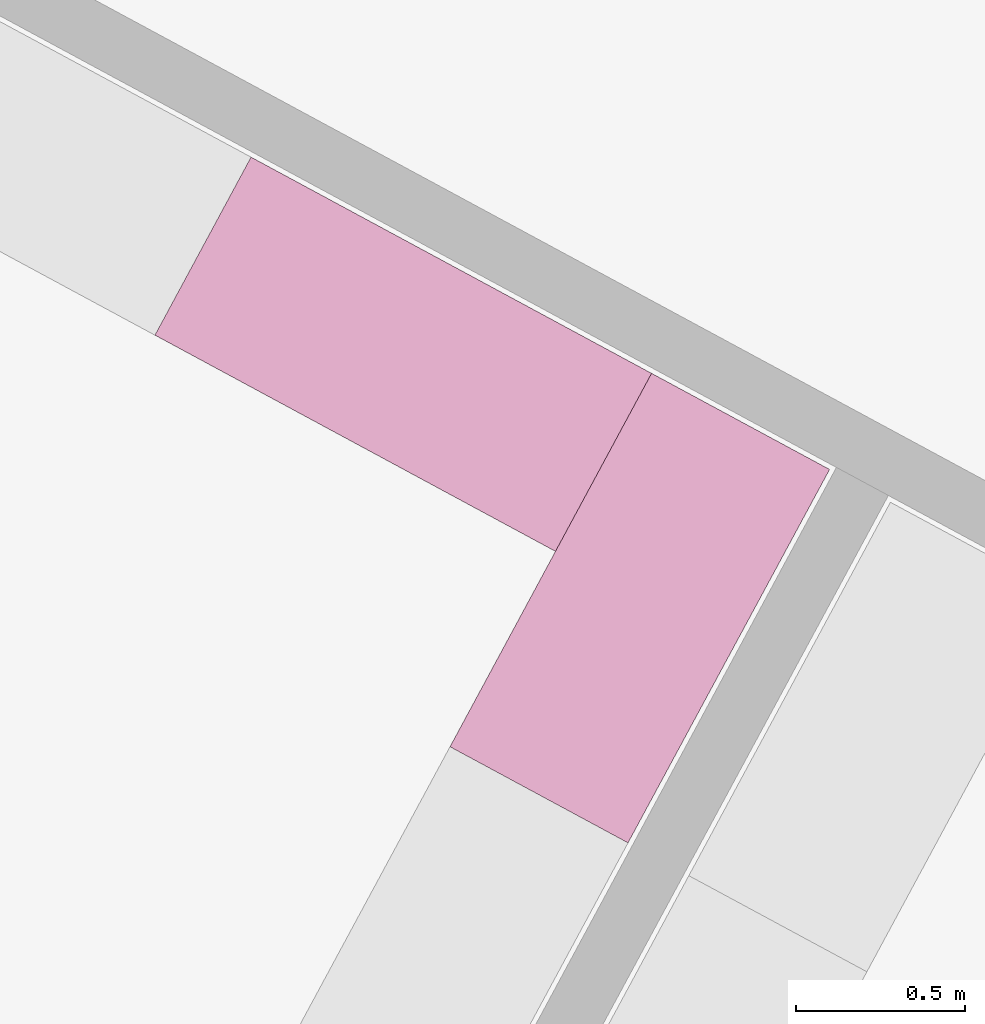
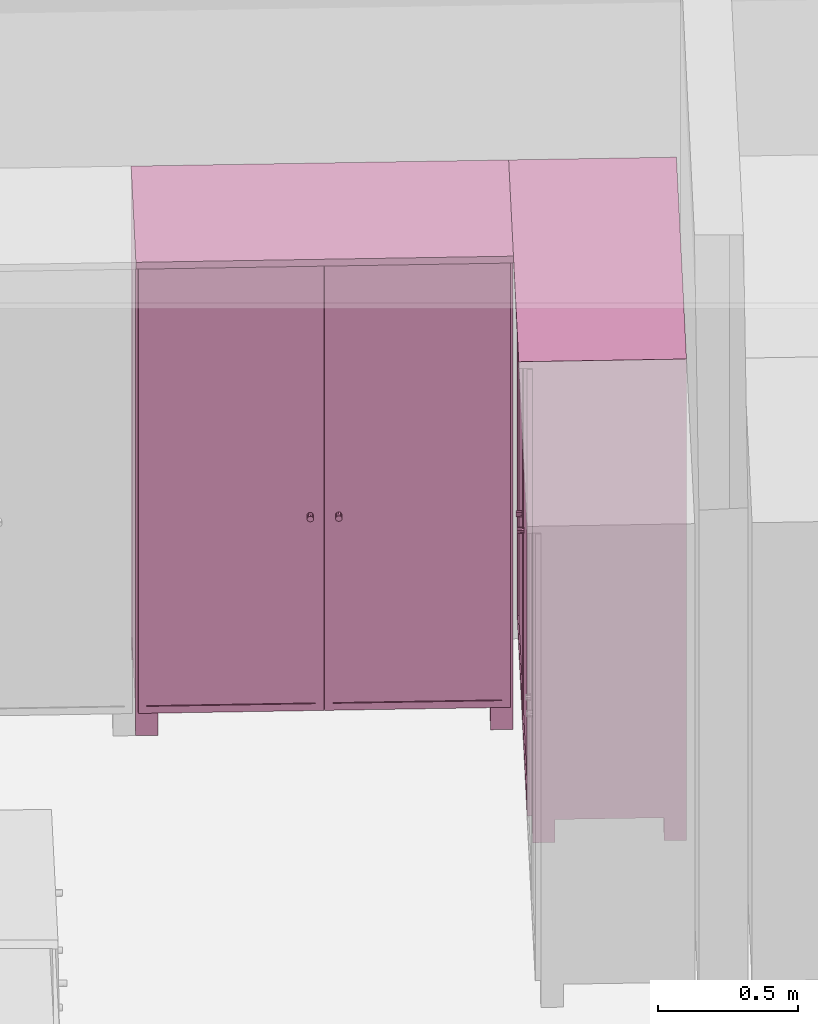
# One storey, part 33 of 41: 2 furnishings.
"""IFC2X3 building model written with IfcOpenShell, lengths in metres."""

from ifc_helpers import new_model, entity, si_unit, converted_unit, derived_unit, money_unit, direction, frame, origin_with_axes, place, context, subcontext, project, spatial, faceted_brep, type_object, element, save


model = new_model("IFC2X3")

# Units and contexts
model_context = context("Model", 3, precision=1e-05, world=origin_with_axes(), true_north=direction((0.0, 1.0)))
body_context = subcontext(model_context, "Body", "Model", "MODEL_VIEW")
ifc_project = project(units=[si_unit("LENGTHUNIT", "METRE"), si_unit("AREAUNIT", "SQUARE_METRE"), si_unit("VOLUMEUNIT", "CUBIC_METRE"), converted_unit("PLANEANGLEUNIT", "DEGREE", entity("IfcPlaneAngleMeasure", 0.0174532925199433), si_unit("PLANEANGLEUNIT", "RADIAN"), dimensions=[0, 0, 0, 0, 0, 0, 0]), money_unit("EUR"), converted_unit("TIMEUNIT", "Year", entity("IfcTimeMeasure", 31556926.0), si_unit("TIMEUNIT", "SECOND"), dimensions=[0, 0, 1, 0, 0, 0, 0]), si_unit("MASSUNIT", "GRAM", prefix="KILO"), si_unit("THERMODYNAMICTEMPERATUREUNIT", "DEGREE_CELSIUS"), si_unit("LUMINOUSINTENSITYUNIT", "LUMEN"), si_unit("ENERGYUNIT", "JOULE", prefix="MEGA"), derived_unit("THERMALCONDUCTANCEUNIT", [(si_unit("POWERUNIT", "WATT"), 1), (si_unit("LENGTHUNIT", "METRE"), -1), (si_unit("THERMODYNAMICTEMPERATUREUNIT", "KELVIN"), -1)]), derived_unit("SPECIFICHEATCAPACITYUNIT", [(si_unit("ENERGYUNIT", "JOULE"), 1), (si_unit("MASSUNIT", "GRAM", prefix="KILO"), -1), (si_unit("THERMODYNAMICTEMPERATUREUNIT", "KELVIN"), -1)]), derived_unit("MASSDENSITYUNIT", [(si_unit("MASSUNIT", "GRAM", prefix="KILO"), 1), (si_unit("VOLUMEUNIT", "CUBIC_METRE"), -1)])], contexts=[model_context])

# Site, building, storey
site_placement = place(None, frame((-3.949935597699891, 1.740105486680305, 0.0), z_axis=(0.0, 0.0, 1.0), x_axis=(0.8799804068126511, -0.475009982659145, 0.0)))
site = spatial("IfcSite", under=ifc_project, at=site_placement, Name="Gelände", CompositionType="ELEMENT")
building_placement = place(site_placement, origin_with_axes())
building = spatial("IfcBuilding", under=site, at=building_placement, Name="Gebäude", CompositionType="ELEMENT")
storey_placement = place(building_placement, frame((0.0, 0.0, 4.55), z_axis=(0.0, 0.0, 1.0), x_axis=(1.0, 0.0, 0.0)))
storey = spatial("IfcBuildingStorey", under=building, at=storey_placement, Name="Staffelgeschoss", CompositionType="ELEMENT", Elevation=4.55)

# Furnishings
furniture_type = type_object("IfcFurnitureType", Name="Kleiderschrank 22", AssemblyPlace="NOTDEFINED")
furnishing_1_placement = place(storey_placement, frame((15.97849488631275, 5.70306071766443, 0.0), z_axis=(0.0, 0.0, 1.0), x_axis=(0.0, -1.0, 0.0)))
element("IfcFurnishingElement", 1, at=furnishing_1_placement, inside=storey, type_object=furniture_type, Name="Objekt-0066", ObjectType="FURNITURE", context=body_context, shape_type="Brep", body=[
    faceted_brep([(0.02000000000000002, 0.6000000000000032, 0.12), (0.02000000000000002, 0.5800000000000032, 0.12), (0.02000000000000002, 0.5800000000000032, 2.05), (0.02000000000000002, 0.6000000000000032, 2.05), (1.238534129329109, 0.6000000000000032, 0.12), (1.238534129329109, 0.5800000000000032, 0.12), (1.238534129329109, 0.5800000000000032, 2.05), (1.238534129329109, 0.6000000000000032, 2.05)], [[[0, 1, 2, 3]], [[0, 4, 5, 1]], [[1, 5, 6, 2]], [[3, 2, 6, 7]], [[4, 0, 3, 7]], [[5, 4, 7, 6]]]),
    faceted_brep([(1.258534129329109, 0.05000000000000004, 0.1), (1.238534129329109, 0.05000000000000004, 0.1), (1.238534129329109, 0.6000000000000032, 0.1), (1.258534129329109, 0.6000000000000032, 0.1), (1.258534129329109, 0.05000000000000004, 2.07), (1.238534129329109, 0.05000000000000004, 2.07), (1.238534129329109, 0.6000000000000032, 2.07), (1.258534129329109, 0.6000000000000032, 2.07)], [[[0, 1, 2, 3]], [[1, 0, 4, 5]], [[2, 1, 5, 6]], [[3, 2, 6, 7]], [[0, 3, 7, 4]], [[5, 4, 7, 6]]]),
    faceted_brep([(0.02, 0.05000000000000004, 0.1), (0.0, 0.05000000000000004, 0.1), (0.0, 0.6000000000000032, 0.1), (0.02, 0.6000000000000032, 0.1), (0.02, 0.05000000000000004, 2.07), (0.0, 0.05000000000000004, 2.07), (0.0, 0.6000000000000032, 2.07), (0.02, 0.6000000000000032, 2.07)], [[[0, 1, 2, 3]], [[1, 0, 4, 5]], [[2, 1, 5, 6]], [[3, 2, 6, 7]], [[0, 3, 7, 4]], [[5, 4, 7, 6]]]),
    faceted_brep([(1.238534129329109, 0.05000000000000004, 0.1), (0.02000000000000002, 0.05000000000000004, 0.1), (0.02000000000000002, 0.6000000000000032, 0.1), (1.238534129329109, 0.6000000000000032, 0.1), (1.238534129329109, 0.05000000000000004, 0.12), (0.02000000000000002, 0.05000000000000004, 0.12), (0.02000000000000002, 0.6000000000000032, 0.12), (1.238534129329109, 0.6000000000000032, 0.12)], [[[0, 1, 2, 3]], [[1, 0, 4, 5]], [[2, 1, 5, 6]], [[3, 2, 6, 7]], [[0, 3, 7, 4]], [[5, 4, 7, 6]]]),
    faceted_brep([(1.238534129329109, 0.05000000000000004, 2.05), (0.02000000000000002, 0.05000000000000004, 2.05), (0.02000000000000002, 0.6000000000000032, 2.05), (1.238534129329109, 0.6000000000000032, 2.05), (1.238534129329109, 0.05000000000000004, 2.07), (0.02000000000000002, 0.05000000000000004, 2.07), (0.02000000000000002, 0.6000000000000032, 2.07), (1.238534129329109, 0.6000000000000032, 2.07)], [[[0, 1, 2, 3]], [[1, 0, 4, 5]], [[2, 1, 5, 6]], [[3, 2, 6, 7]], [[0, 3, 7, 4]], [[5, 4, 7, 6]]]),
    faceted_brep([(1.258534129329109, 0.6000000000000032, 2.07), (1.258534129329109, 0.6000000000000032, 2.1), (1.258534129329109, 0.0, 2.1), (1.258534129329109, 0.0, 2.07), (0.0, 0.6000000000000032, 2.07), (0.0, 0.6000000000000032, 2.1), (0.0, 0.0, 2.1), (0.0, 0.0, 2.07)], [[[0, 1, 2, 3]], [[4, 5, 1, 0]], [[1, 5, 6, 2]], [[3, 2, 6, 7]], [[0, 3, 7, 4]], [[7, 6, 5, 4]]]),
    faceted_brep([(0.08000000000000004, 0.5200000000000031, 0.0), (0.08000000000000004, 0.6000000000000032, 0.0), (0.08000000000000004, 0.6000000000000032, 0.1), (0.08000000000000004, 0.5200000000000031, 0.1), (0.0, 0.5200000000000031, 0.0), (0.0, 0.6000000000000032, 0.0), (0.0, 0.6000000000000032, 0.1), (0.0, 0.5200000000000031, 0.1)], [[[0, 1, 2, 3]], [[0, 4, 5, 1]], [[1, 5, 6, 2]], [[3, 2, 6, 7]], [[4, 0, 3, 7]], [[5, 4, 7, 6]]]),
    faceted_brep([(1.258534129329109, 0.5200000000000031, 0.0), (1.258534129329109, 0.6000000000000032, 0.0), (1.258534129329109, 0.6000000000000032, 0.1), (1.258534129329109, 0.5200000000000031, 0.1), (1.178534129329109, 0.5200000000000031, 0.0), (1.178534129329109, 0.6000000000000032, 0.0), (1.178534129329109, 0.6000000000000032, 0.1), (1.178534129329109, 0.5200000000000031, 0.1)], [[[0, 1, 2, 3]], [[0, 4, 5, 1]], [[1, 5, 6, 2]], [[3, 2, 6, 7]], [[4, 0, 3, 7]], [[5, 4, 7, 6]]]),
    faceted_brep([(0.08000000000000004, 0.05000000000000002, 0.0), (0.08000000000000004, 0.13, 0.0), (0.08000000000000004, 0.13, 0.1), (0.08000000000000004, 0.05000000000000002, 0.1), (0.0, 0.05000000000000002, 0.0), (0.0, 0.13, 0.0), (0.0, 0.13, 0.1), (0.0, 0.05000000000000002, 0.1)], [[[0, 1, 2, 3]], [[0, 4, 5, 1]], [[1, 5, 6, 2]], [[3, 2, 6, 7]], [[4, 0, 3, 7]], [[5, 4, 7, 6]]]),
    faceted_brep([(1.258534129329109, 0.05000000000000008, 0.0), (1.258534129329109, 0.1300000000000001, 0.0), (1.258534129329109, 0.1300000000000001, 0.1), (1.258534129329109, 0.05000000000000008, 0.1), (1.178534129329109, 0.05000000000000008, 0.0), (1.178534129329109, 0.1300000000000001, 0.0), (1.178534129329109, 0.1300000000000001, 0.1), (1.178534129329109, 0.05000000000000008, 0.1)], [[[0, 1, 2, 3]], [[0, 4, 5, 1]], [[1, 5, 6, 2]], [[3, 2, 6, 7]], [[4, 0, 3, 7]], [[5, 4, 7, 6]]]),
    faceted_brep([(0.6287670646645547, 0.05, 0.1104999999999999), (0.6287670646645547, 0.05000000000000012, 2.0595), (0.6287670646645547, 0.03000000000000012, 2.0595), (0.6287670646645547, 0.03, 0.1104999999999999), (0.5987670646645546, 0.05, 0.1405), (0.5987670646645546, 0.05000000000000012, 2.0295), (0.5987670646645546, 0.03000000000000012, 2.0295), (0.5987670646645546, 0.03000000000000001, 0.1405)], [[[0, 1, 2, 3]], [[0, 4, 5, 1]], [[1, 5, 6, 2]], [[3, 2, 6, 7]], [[4, 0, 3, 7]], [[5, 4, 7, 6]]]),
    faceted_brep([(0.04049999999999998, 0.05, 0.1405), (0.04049999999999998, 0.05000000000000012, 2.0295), (0.04049999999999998, 0.03000000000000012, 2.0295), (0.04049999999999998, 0.03000000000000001, 0.1405), (0.01050000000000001, 0.05, 0.1104999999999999), (0.01050000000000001, 0.05000000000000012, 2.0595), (0.01050000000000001, 0.03000000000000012, 2.0595), (0.01050000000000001, 0.03, 0.1104999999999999)], [[[0, 1, 2, 3]], [[0, 4, 5, 1]], [[1, 5, 6, 2]], [[3, 2, 6, 7]], [[4, 0, 3, 7]], [[5, 4, 7, 6]]]),
    faceted_brep([(0.01050000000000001, 0.05, 0.1104999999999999), (0.6287670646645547, 0.05, 0.1104999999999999), (0.6287670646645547, 0.03, 0.1104999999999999), (0.01050000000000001, 0.03, 0.1104999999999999), (0.04049999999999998, 0.05, 0.1405), (0.5987670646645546, 0.05, 0.1405), (0.5987670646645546, 0.03000000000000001, 0.1405), (0.04049999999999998, 0.03000000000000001, 0.1405)], [[[0, 1, 2, 3]], [[0, 4, 5, 1]], [[1, 5, 6, 2]], [[3, 2, 6, 7]], [[4, 0, 3, 7]], [[5, 4, 7, 6]]]),
    faceted_brep([(0.04049999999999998, 0.05000000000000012, 2.0295), (0.5987670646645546, 0.05000000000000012, 2.0295), (0.5987670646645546, 0.03000000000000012, 2.0295), (0.04049999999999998, 0.03000000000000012, 2.0295), (0.01050000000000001, 0.05000000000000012, 2.0595), (0.6287670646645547, 0.05000000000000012, 2.0595), (0.6287670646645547, 0.03000000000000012, 2.0595), (0.01050000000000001, 0.03000000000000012, 2.0595)], [[[0, 1, 2, 3]], [[0, 4, 5, 1]], [[1, 5, 6, 2]], [[3, 2, 6, 7]], [[4, 0, 3, 7]], [[5, 4, 7, 6]]]),
    faceted_brep([(0.5987670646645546, 0.04500000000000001, 0.1405), (0.5987670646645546, 0.04500000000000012, 2.0295), (0.5987670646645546, 0.03500000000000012, 2.0295), (0.5987670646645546, 0.035, 0.1405), (0.04049999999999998, 0.04500000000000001, 0.1405), (0.04049999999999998, 0.04500000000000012, 2.0295), (0.04049999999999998, 0.03500000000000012, 2.0295), (0.04049999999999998, 0.035, 0.1405)], [[[0, 1, 2, 3]], [[0, 4, 5, 1]], [[1, 5, 6, 2]], [[3, 2, 6, 7]], [[4, 0, 3, 7]], [[5, 4, 7, 6]]]),
    faceted_brep([(0.5886593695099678, 0.035, 0.954), (0.5842670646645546, 0.035, 0.9496076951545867), (0.5782670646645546, 0.035, 0.948), (0.5722670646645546, 0.035, 0.9496076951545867), (0.5678747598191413, 0.035, 0.954), (0.5662670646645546, 0.035, 0.96), (0.5678747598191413, 0.035, 0.966), (0.5722670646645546, 0.035, 0.9703923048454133), (0.5782670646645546, 0.035, 0.972), (0.5842670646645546, 0.035, 0.9703923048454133), (0.5886593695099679, 0.035, 0.966), (0.5902670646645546, 0.035, 0.96), (0.5886593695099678, 0.01, 0.954), (0.5842670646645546, 0.01, 0.9496076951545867), (0.5782670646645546, 0.01, 0.948), (0.5722670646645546, 0.01, 0.9496076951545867), (0.5678747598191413, 0.01, 0.954), (0.5662670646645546, 0.01, 0.96), (0.5678747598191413, 0.01, 0.966), (0.5722670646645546, 0.01, 0.9703923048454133), (0.5782670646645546, 0.01, 0.972), (0.5842670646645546, 0.01, 0.9703923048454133), (0.5886593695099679, 0.01, 0.966), (0.5902670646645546, 0.01, 0.96)], [[[0, 1, 2, 3, 4, 5, 6, 7, 8, 9, 10, 11]], [[1, 0, 12, 13]], [[2, 1, 13, 14]], [[3, 2, 14, 15]], [[4, 3, 15, 16]], [[5, 4, 16, 17]], [[6, 5, 17, 18]], [[7, 6, 18, 19]], [[8, 7, 19, 20]], [[9, 8, 20, 21]], [[10, 9, 21, 22]], [[11, 10, 22, 23]], [[0, 11, 23, 12]], [[12, 23, 22, 21, 20, 19, 18, 17, 16, 15, 14, 13]]]),
    faceted_brep([(1.249034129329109, 0.05, 0.1104999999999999), (1.249034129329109, 0.05000000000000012, 2.0595), (1.249034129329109, 0.03000000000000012, 2.0595), (1.249034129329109, 0.03, 0.1104999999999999), (1.219034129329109, 0.05, 0.1405), (1.219034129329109, 0.05000000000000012, 2.0295), (1.219034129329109, 0.03000000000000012, 2.0295), (1.219034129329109, 0.03000000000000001, 0.1405)], [[[0, 1, 2, 3]], [[0, 4, 5, 1]], [[1, 5, 6, 2]], [[3, 2, 6, 7]], [[4, 0, 3, 7]], [[5, 4, 7, 6]]]),
    faceted_brep([(0.6607670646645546, 0.05, 0.1405), (0.6607670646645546, 0.05000000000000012, 2.0295), (0.6607670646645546, 0.03000000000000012, 2.0295), (0.6607670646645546, 0.03000000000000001, 0.1405), (0.6307670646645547, 0.05, 0.1104999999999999), (0.6307670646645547, 0.05000000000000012, 2.0595), (0.6307670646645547, 0.03000000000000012, 2.0595), (0.6307670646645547, 0.03, 0.1104999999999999)], [[[0, 1, 2, 3]], [[0, 4, 5, 1]], [[1, 5, 6, 2]], [[3, 2, 6, 7]], [[4, 0, 3, 7]], [[5, 4, 7, 6]]]),
    faceted_brep([(0.6307670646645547, 0.05, 0.1104999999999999), (1.249034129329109, 0.05, 0.1104999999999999), (1.249034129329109, 0.03, 0.1104999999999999), (0.6307670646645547, 0.03, 0.1104999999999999), (0.6607670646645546, 0.05, 0.1405), (1.219034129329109, 0.05, 0.1405), (1.219034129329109, 0.03000000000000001, 0.1405), (0.6607670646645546, 0.03000000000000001, 0.1405)], [[[0, 1, 2, 3]], [[0, 4, 5, 1]], [[1, 5, 6, 2]], [[3, 2, 6, 7]], [[4, 0, 3, 7]], [[5, 4, 7, 6]]]),
    faceted_brep([(0.6607670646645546, 0.05000000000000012, 2.0295), (1.219034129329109, 0.05000000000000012, 2.0295), (1.219034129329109, 0.03000000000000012, 2.0295), (0.6607670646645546, 0.03000000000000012, 2.0295), (0.6307670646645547, 0.05000000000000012, 2.0595), (1.249034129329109, 0.05000000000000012, 2.0595), (1.249034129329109, 0.03000000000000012, 2.0595), (0.6307670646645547, 0.03000000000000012, 2.0595)], [[[0, 1, 2, 3]], [[0, 4, 5, 1]], [[1, 5, 6, 2]], [[3, 2, 6, 7]], [[4, 0, 3, 7]], [[5, 4, 7, 6]]]),
    faceted_brep([(1.219034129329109, 0.04500000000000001, 0.1405), (1.219034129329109, 0.04500000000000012, 2.0295), (1.219034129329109, 0.04000000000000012, 2.0295), (1.219034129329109, 0.04000000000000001, 0.1405), (0.6607670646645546, 0.04500000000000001, 0.1405), (0.6607670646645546, 0.04500000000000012, 2.0295), (0.6607670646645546, 0.04000000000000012, 2.0295), (0.6607670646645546, 0.04000000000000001, 0.1405)], [[[0, 1, 2, 3]], [[0, 4, 5, 1]], [[1, 5, 6, 2]], [[3, 2, 6, 7]], [[4, 0, 3, 7]], [[5, 4, 7, 6]]]),
    faceted_brep([(1.219034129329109, 0.04000000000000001, 0.1405), (1.219034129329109, 0.04000000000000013, 2.0295), (1.219034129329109, 0.03500000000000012, 2.0295), (1.219034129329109, 0.03500000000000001, 0.1405), (0.6607670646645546, 0.04000000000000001, 0.1405), (0.6607670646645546, 0.04000000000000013, 2.0295), (0.6607670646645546, 0.03500000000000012, 2.0295), (0.6607670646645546, 0.03500000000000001, 0.1405)], [[[0, 1, 2, 3]], [[0, 4, 5, 1]], [[1, 5, 6, 2]], [[3, 2, 6, 7]], [[4, 0, 3, 7]], [[5, 4, 7, 6]]]),
    faceted_brep([(0.6698747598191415, 0.035, 0.954), (0.6682670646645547, 0.035, 0.96), (0.6698747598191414, 0.035, 0.966), (0.6742670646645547, 0.035, 0.9703923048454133), (0.6802670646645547, 0.035, 0.972), (0.6862670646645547, 0.035, 0.9703923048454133), (0.690659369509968, 0.035, 0.966), (0.6922670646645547, 0.035, 0.96), (0.690659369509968, 0.035, 0.954), (0.6862670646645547, 0.035, 0.9496076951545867), (0.6802670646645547, 0.035, 0.948), (0.6742670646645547, 0.035, 0.9496076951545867), (0.6698747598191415, 0.01, 0.954), (0.6682670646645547, 0.01, 0.96), (0.6698747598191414, 0.01, 0.966), (0.6742670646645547, 0.01, 0.9703923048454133), (0.6802670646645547, 0.01, 0.972), (0.6862670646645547, 0.01, 0.9703923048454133), (0.690659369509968, 0.01, 0.966), (0.6922670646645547, 0.01, 0.96), (0.690659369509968, 0.01, 0.954), (0.6862670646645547, 0.01, 0.9496076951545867), (0.6802670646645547, 0.01, 0.948), (0.6742670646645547, 0.01, 0.9496076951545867)], [[[0, 1, 2, 3, 4, 5, 6, 7, 8, 9, 10, 11]], [[0, 12, 13, 1]], [[1, 13, 14, 2]], [[2, 14, 15, 3]], [[3, 15, 16, 4]], [[4, 16, 17, 5]], [[5, 17, 18, 6]], [[6, 18, 19, 7]], [[7, 19, 20, 8]], [[8, 20, 21, 9]], [[9, 21, 22, 10]], [[10, 22, 23, 11]], [[11, 23, 12, 0]], [[12, 23, 22, 21, 20, 19, 18, 17, 16, 15, 14, 13]]]),
])
furnishing_2_placement = place(storey_placement, frame((15.97849488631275, 5.103060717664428, 0.0), z_axis=(0.0, 0.0, 1.0), x_axis=(1.0, 0.0, 0.0)))
element("IfcFurnishingElement", 2, at=furnishing_2_placement, inside=storey, type_object=furniture_type, Name="Objekt-0066", ObjectType="FURNITURE", context=body_context, shape_type="Brep", body=[
    faceted_brep([(-0.02000000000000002, 0.6000000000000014, 0.12), (-0.02000000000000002, 0.6000000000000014, 2.05), (-0.02000000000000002, 0.5800000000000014, 2.05), (-0.02000000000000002, 0.5800000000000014, 0.12), (-1.33, 0.6000000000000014, 0.12), (-1.33, 0.6000000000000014, 2.05), (-1.33, 0.5800000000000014, 2.05), (-1.33, 0.5800000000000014, 0.12)], [[[0, 1, 2, 3]], [[4, 5, 1, 0]], [[1, 5, 6, 2]], [[3, 2, 6, 7]], [[0, 3, 7, 4]], [[7, 6, 5, 4]]]),
    faceted_brep([(-1.35, 0.05000000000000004, 0.1), (-1.35, 0.6000000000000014, 0.1), (-1.33, 0.6000000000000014, 0.1), (-1.33, 0.05000000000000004, 0.1), (-1.35, 0.05000000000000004, 2.07), (-1.35, 0.6000000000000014, 2.07), (-1.33, 0.6000000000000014, 2.07), (-1.33, 0.05000000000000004, 2.07)], [[[0, 1, 2, 3]], [[0, 4, 5, 1]], [[1, 5, 6, 2]], [[2, 6, 7, 3]], [[3, 7, 4, 0]], [[7, 6, 5, 4]]]),
    faceted_brep([(-0.02, 0.05000000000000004, 0.1), (-0.02, 0.6000000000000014, 0.1), (0.0, 0.6000000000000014, 0.1), (0.0, 0.05000000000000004, 0.1), (-0.02, 0.05000000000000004, 2.07), (-0.02, 0.6000000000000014, 2.07), (0.0, 0.6000000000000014, 2.07), (0.0, 0.05000000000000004, 2.07)], [[[0, 1, 2, 3]], [[0, 4, 5, 1]], [[1, 5, 6, 2]], [[2, 6, 7, 3]], [[3, 7, 4, 0]], [[7, 6, 5, 4]]]),
    faceted_brep([(-1.33, 0.05000000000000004, 0.1), (-1.33, 0.6000000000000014, 0.1), (-0.02000000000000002, 0.6000000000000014, 0.1), (-0.02000000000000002, 0.05000000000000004, 0.1), (-1.33, 0.05000000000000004, 0.12), (-1.33, 0.6000000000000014, 0.12), (-0.02000000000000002, 0.6000000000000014, 0.12), (-0.02000000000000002, 0.05000000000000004, 0.12)], [[[0, 1, 2, 3]], [[0, 4, 5, 1]], [[1, 5, 6, 2]], [[2, 6, 7, 3]], [[3, 7, 4, 0]], [[7, 6, 5, 4]]]),
    faceted_brep([(-1.33, 0.05000000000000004, 2.05), (-1.33, 0.6000000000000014, 2.05), (-0.02000000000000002, 0.6000000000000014, 2.05), (-0.02000000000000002, 0.05000000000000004, 2.05), (-1.33, 0.05000000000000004, 2.07), (-1.33, 0.6000000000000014, 2.07), (-0.02000000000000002, 0.6000000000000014, 2.07), (-0.02000000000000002, 0.05000000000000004, 2.07)], [[[0, 1, 2, 3]], [[0, 4, 5, 1]], [[1, 5, 6, 2]], [[2, 6, 7, 3]], [[3, 7, 4, 0]], [[7, 6, 5, 4]]]),
    faceted_brep([(-1.35, 0.6000000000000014, 2.07), (-1.35, 0.0, 2.07), (-1.35, 0.0, 2.1), (-1.35, 0.6000000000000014, 2.1), (0.0, 0.6000000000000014, 2.07), (0.0, 0.0, 2.07), (0.0, 0.0, 2.1), (0.0, 0.6000000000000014, 2.1)], [[[0, 1, 2, 3]], [[0, 4, 5, 1]], [[1, 5, 6, 2]], [[3, 2, 6, 7]], [[4, 0, 3, 7]], [[5, 4, 7, 6]]]),
    faceted_brep([(-0.08000000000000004, 0.5200000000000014, 0.0), (-0.08000000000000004, 0.5200000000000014, 0.1), (-0.08000000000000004, 0.6000000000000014, 0.1), (-0.08000000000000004, 0.6000000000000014, 0.0), (0.0, 0.5200000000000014, 0.0), (0.0, 0.5200000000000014, 0.1), (0.0, 0.6000000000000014, 0.1), (0.0, 0.6000000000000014, 0.0)], [[[0, 1, 2, 3]], [[4, 5, 1, 0]], [[1, 5, 6, 2]], [[3, 2, 6, 7]], [[0, 3, 7, 4]], [[7, 6, 5, 4]]]),
    faceted_brep([(-1.35, 0.5200000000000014, 0.0), (-1.35, 0.5200000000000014, 0.1), (-1.35, 0.6000000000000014, 0.1), (-1.35, 0.6000000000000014, 0.0), (-1.27, 0.5200000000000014, 0.0), (-1.27, 0.5200000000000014, 0.1), (-1.27, 0.6000000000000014, 0.1), (-1.27, 0.6000000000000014, 0.0)], [[[0, 1, 2, 3]], [[4, 5, 1, 0]], [[1, 5, 6, 2]], [[3, 2, 6, 7]], [[0, 3, 7, 4]], [[7, 6, 5, 4]]]),
    faceted_brep([(-0.08000000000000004, 0.05000000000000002, 0.0), (-0.08000000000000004, 0.05000000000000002, 0.1), (-0.08000000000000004, 0.13, 0.1), (-0.08000000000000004, 0.13, 0.0), (0.0, 0.05000000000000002, 0.0), (0.0, 0.05000000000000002, 0.1), (0.0, 0.13, 0.1), (0.0, 0.13, 0.0)], [[[0, 1, 2, 3]], [[4, 5, 1, 0]], [[1, 5, 6, 2]], [[3, 2, 6, 7]], [[0, 3, 7, 4]], [[7, 6, 5, 4]]]),
    faceted_brep([(-1.35, 0.05000000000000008, 0.0), (-1.35, 0.05000000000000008, 0.1), (-1.35, 0.1300000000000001, 0.1), (-1.35, 0.1300000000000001, 0.0), (-1.27, 0.05000000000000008, 0.0), (-1.27, 0.05000000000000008, 0.1), (-1.27, 0.1300000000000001, 0.1), (-1.27, 0.1300000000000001, 0.0)], [[[0, 1, 2, 3]], [[4, 5, 1, 0]], [[1, 5, 6, 2]], [[3, 2, 6, 7]], [[0, 3, 7, 4]], [[7, 6, 5, 4]]]),
    faceted_brep([(-0.6745000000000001, 0.05, 0.1104999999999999), (-0.6745000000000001, 0.03, 0.1104999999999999), (-0.6745000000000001, 0.03000000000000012, 2.0595), (-0.6745000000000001, 0.05000000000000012, 2.0595), (-0.6445000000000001, 0.05, 0.1405), (-0.6445000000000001, 0.03000000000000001, 0.1405), (-0.6445000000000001, 0.03000000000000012, 2.0295), (-0.6445000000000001, 0.05000000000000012, 2.0295)], [[[0, 1, 2, 3]], [[4, 5, 1, 0]], [[1, 5, 6, 2]], [[3, 2, 6, 7]], [[0, 3, 7, 4]], [[7, 6, 5, 4]]]),
    faceted_brep([(-0.04049999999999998, 0.05, 0.1405), (-0.04049999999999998, 0.03000000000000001, 0.1405), (-0.04049999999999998, 0.03000000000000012, 2.0295), (-0.04049999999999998, 0.05000000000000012, 2.0295), (-0.01050000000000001, 0.05, 0.1104999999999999), (-0.01050000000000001, 0.03, 0.1104999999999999), (-0.01050000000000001, 0.03000000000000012, 2.0595), (-0.01050000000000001, 0.05000000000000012, 2.0595)], [[[0, 1, 2, 3]], [[4, 5, 1, 0]], [[1, 5, 6, 2]], [[3, 2, 6, 7]], [[0, 3, 7, 4]], [[7, 6, 5, 4]]]),
    faceted_brep([(-0.01050000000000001, 0.05, 0.1104999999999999), (-0.01050000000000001, 0.03, 0.1104999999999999), (-0.6745000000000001, 0.03, 0.1104999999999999), (-0.6745000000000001, 0.05, 0.1104999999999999), (-0.04049999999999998, 0.05, 0.1405), (-0.04049999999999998, 0.03000000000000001, 0.1405), (-0.6445000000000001, 0.03000000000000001, 0.1405), (-0.6445000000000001, 0.05, 0.1405)], [[[0, 1, 2, 3]], [[4, 5, 1, 0]], [[1, 5, 6, 2]], [[3, 2, 6, 7]], [[0, 3, 7, 4]], [[7, 6, 5, 4]]]),
    faceted_brep([(-0.04049999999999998, 0.05000000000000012, 2.0295), (-0.04049999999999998, 0.03000000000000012, 2.0295), (-0.6445000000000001, 0.03000000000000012, 2.0295), (-0.6445000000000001, 0.05000000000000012, 2.0295), (-0.01050000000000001, 0.05000000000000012, 2.0595), (-0.01050000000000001, 0.03000000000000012, 2.0595), (-0.6745000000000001, 0.03000000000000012, 2.0595), (-0.6745000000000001, 0.05000000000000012, 2.0595)], [[[0, 1, 2, 3]], [[4, 5, 1, 0]], [[1, 5, 6, 2]], [[3, 2, 6, 7]], [[0, 3, 7, 4]], [[7, 6, 5, 4]]]),
    faceted_brep([(-0.6445000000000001, 0.04500000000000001, 0.1405), (-0.6445000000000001, 0.035, 0.1405), (-0.6445000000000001, 0.03500000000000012, 2.0295), (-0.6445000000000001, 0.04500000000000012, 2.0295), (-0.04049999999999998, 0.04500000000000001, 0.1405), (-0.04049999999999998, 0.035, 0.1405), (-0.04049999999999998, 0.03500000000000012, 2.0295), (-0.04049999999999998, 0.04500000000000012, 2.0295)], [[[0, 1, 2, 3]], [[4, 5, 1, 0]], [[1, 5, 6, 2]], [[3, 2, 6, 7]], [[0, 3, 7, 4]], [[7, 6, 5, 4]]]),
    faceted_brep([(-0.6343923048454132, 0.035, 0.954), (-0.636, 0.035, 0.96), (-0.6343923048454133, 0.035, 0.966), (-0.63, 0.035, 0.9703923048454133), (-0.624, 0.035, 0.972), (-0.618, 0.035, 0.9703923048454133), (-0.6136076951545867, 0.035, 0.966), (-0.612, 0.035, 0.96), (-0.6136076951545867, 0.035, 0.954), (-0.618, 0.035, 0.9496076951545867), (-0.624, 0.035, 0.948), (-0.63, 0.035, 0.9496076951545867), (-0.6343923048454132, 0.01, 0.954), (-0.636, 0.01, 0.96), (-0.6343923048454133, 0.01, 0.966), (-0.63, 0.01, 0.9703923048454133), (-0.624, 0.01, 0.972), (-0.618, 0.01, 0.9703923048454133), (-0.6136076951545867, 0.01, 0.966), (-0.612, 0.01, 0.96), (-0.6136076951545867, 0.01, 0.954), (-0.618, 0.01, 0.9496076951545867), (-0.624, 0.01, 0.948), (-0.63, 0.01, 0.9496076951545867)], [[[0, 1, 2, 3, 4, 5, 6, 7, 8, 9, 10, 11]], [[0, 12, 13, 1]], [[1, 13, 14, 2]], [[2, 14, 15, 3]], [[3, 15, 16, 4]], [[4, 16, 17, 5]], [[5, 17, 18, 6]], [[6, 18, 19, 7]], [[7, 19, 20, 8]], [[8, 20, 21, 9]], [[9, 21, 22, 10]], [[10, 22, 23, 11]], [[11, 23, 12, 0]], [[12, 23, 22, 21, 20, 19, 18, 17, 16, 15, 14, 13]]]),
    faceted_brep([(-1.3405, 0.05, 0.1104999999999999), (-1.3405, 0.03, 0.1104999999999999), (-1.3405, 0.03000000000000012, 2.0595), (-1.3405, 0.05000000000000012, 2.0595), (-1.3105, 0.05, 0.1405), (-1.3105, 0.03000000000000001, 0.1405), (-1.3105, 0.03000000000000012, 2.0295), (-1.3105, 0.05000000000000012, 2.0295)], [[[0, 1, 2, 3]], [[4, 5, 1, 0]], [[1, 5, 6, 2]], [[3, 2, 6, 7]], [[0, 3, 7, 4]], [[7, 6, 5, 4]]]),
    faceted_brep([(-0.7064999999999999, 0.05, 0.1405), (-0.7064999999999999, 0.03000000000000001, 0.1405), (-0.7064999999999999, 0.03000000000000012, 2.0295), (-0.7064999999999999, 0.05000000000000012, 2.0295), (-0.6764999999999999, 0.05, 0.1104999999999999), (-0.6764999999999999, 0.03, 0.1104999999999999), (-0.6764999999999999, 0.03000000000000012, 2.0595), (-0.6764999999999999, 0.05000000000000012, 2.0595)], [[[0, 1, 2, 3]], [[4, 5, 1, 0]], [[1, 5, 6, 2]], [[3, 2, 6, 7]], [[0, 3, 7, 4]], [[7, 6, 5, 4]]]),
    faceted_brep([(-0.6764999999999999, 0.05, 0.1104999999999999), (-0.6764999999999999, 0.03, 0.1104999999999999), (-1.3405, 0.03, 0.1104999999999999), (-1.3405, 0.05, 0.1104999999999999), (-0.7064999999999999, 0.05, 0.1405), (-0.7064999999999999, 0.03000000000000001, 0.1405), (-1.3105, 0.03000000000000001, 0.1405), (-1.3105, 0.05, 0.1405)], [[[0, 1, 2, 3]], [[4, 5, 1, 0]], [[1, 5, 6, 2]], [[3, 2, 6, 7]], [[0, 3, 7, 4]], [[7, 6, 5, 4]]]),
    faceted_brep([(-0.7064999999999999, 0.05000000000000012, 2.0295), (-0.7064999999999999, 0.03000000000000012, 2.0295), (-1.3105, 0.03000000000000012, 2.0295), (-1.3105, 0.05000000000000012, 2.0295), (-0.6764999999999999, 0.05000000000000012, 2.0595), (-0.6764999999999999, 0.03000000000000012, 2.0595), (-1.3405, 0.03000000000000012, 2.0595), (-1.3405, 0.05000000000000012, 2.0595)], [[[0, 1, 2, 3]], [[4, 5, 1, 0]], [[1, 5, 6, 2]], [[3, 2, 6, 7]], [[0, 3, 7, 4]], [[7, 6, 5, 4]]]),
    faceted_brep([(-1.3105, 0.04500000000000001, 0.1405), (-1.3105, 0.04000000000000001, 0.1405), (-1.3105, 0.04000000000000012, 2.0295), (-1.3105, 0.04500000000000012, 2.0295), (-0.7064999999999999, 0.04500000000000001, 0.1405), (-0.7064999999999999, 0.04000000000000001, 0.1405), (-0.7064999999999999, 0.04000000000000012, 2.0295), (-0.7064999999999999, 0.04500000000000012, 2.0295)], [[[0, 1, 2, 3]], [[4, 5, 1, 0]], [[1, 5, 6, 2]], [[3, 2, 6, 7]], [[0, 3, 7, 4]], [[7, 6, 5, 4]]]),
    faceted_brep([(-1.3105, 0.04000000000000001, 0.1405), (-1.3105, 0.03500000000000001, 0.1405), (-1.3105, 0.03500000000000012, 2.0295), (-1.3105, 0.04000000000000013, 2.0295), (-0.7064999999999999, 0.04000000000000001, 0.1405), (-0.7064999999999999, 0.03500000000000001, 0.1405), (-0.7064999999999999, 0.03500000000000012, 2.0295), (-0.7064999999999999, 0.04000000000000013, 2.0295)], [[[0, 1, 2, 3]], [[4, 5, 1, 0]], [[1, 5, 6, 2]], [[3, 2, 6, 7]], [[0, 3, 7, 4]], [[7, 6, 5, 4]]]),
    faceted_brep([(-0.7156076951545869, 0.035, 0.954), (-0.7200000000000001, 0.035, 0.9496076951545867), (-0.7260000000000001, 0.035, 0.948), (-0.7320000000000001, 0.035, 0.9496076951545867), (-0.7363923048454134, 0.035, 0.954), (-0.7380000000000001, 0.035, 0.96), (-0.7363923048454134, 0.035, 0.966), (-0.7320000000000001, 0.035, 0.9703923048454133), (-0.7260000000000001, 0.035, 0.972), (-0.7200000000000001, 0.035, 0.9703923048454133), (-0.7156076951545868, 0.035, 0.966), (-0.7140000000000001, 0.035, 0.96), (-0.7156076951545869, 0.01, 0.954), (-0.7200000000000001, 0.01, 0.9496076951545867), (-0.7260000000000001, 0.01, 0.948), (-0.7320000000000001, 0.01, 0.9496076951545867), (-0.7363923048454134, 0.01, 0.954), (-0.7380000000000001, 0.01, 0.96), (-0.7363923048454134, 0.01, 0.966), (-0.7320000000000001, 0.01, 0.9703923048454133), (-0.7260000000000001, 0.01, 0.972), (-0.7200000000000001, 0.01, 0.9703923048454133), (-0.7156076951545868, 0.01, 0.966), (-0.7140000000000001, 0.01, 0.96)], [[[0, 1, 2, 3, 4, 5, 6, 7, 8, 9, 10, 11]], [[1, 0, 12, 13]], [[2, 1, 13, 14]], [[3, 2, 14, 15]], [[4, 3, 15, 16]], [[5, 4, 16, 17]], [[6, 5, 17, 18]], [[7, 6, 18, 19]], [[8, 7, 19, 20]], [[9, 8, 20, 21]], [[10, 9, 21, 22]], [[11, 10, 22, 23]], [[0, 11, 23, 12]], [[12, 23, 22, 21, 20, 19, 18, 17, 16, 15, 14, 13]]]),
])

save(model, "model.ifc")
